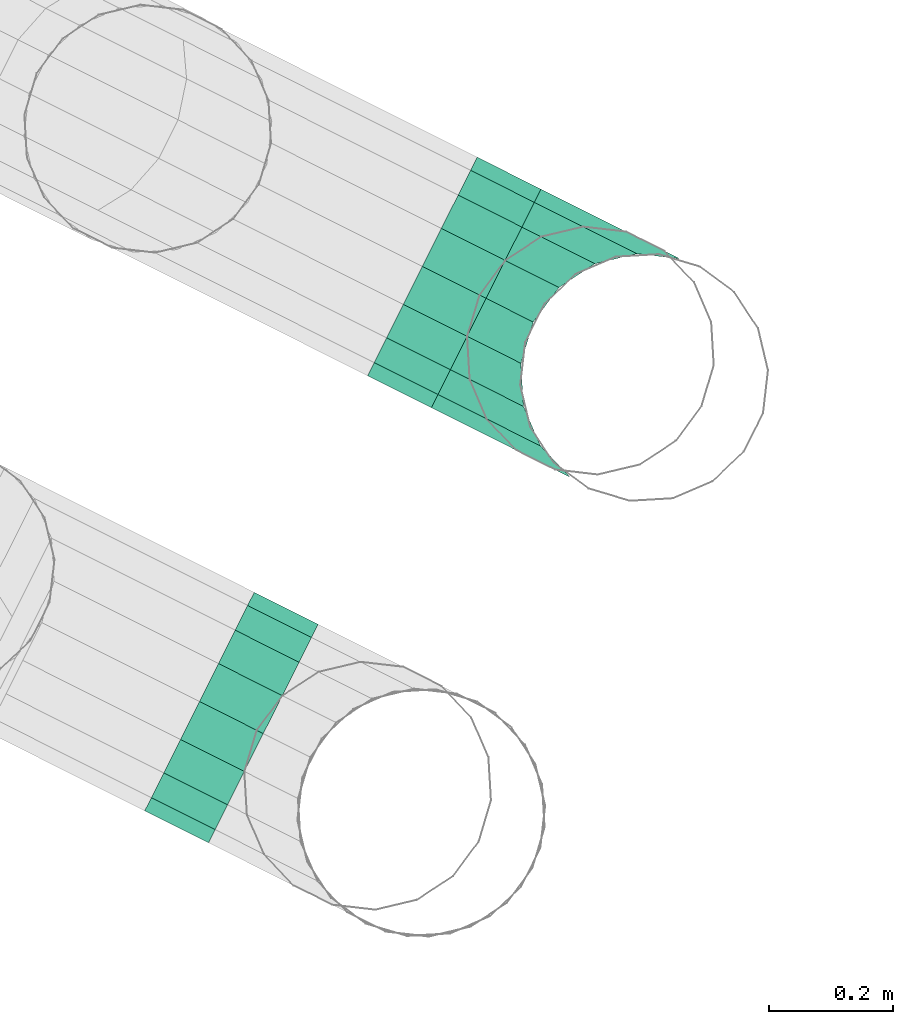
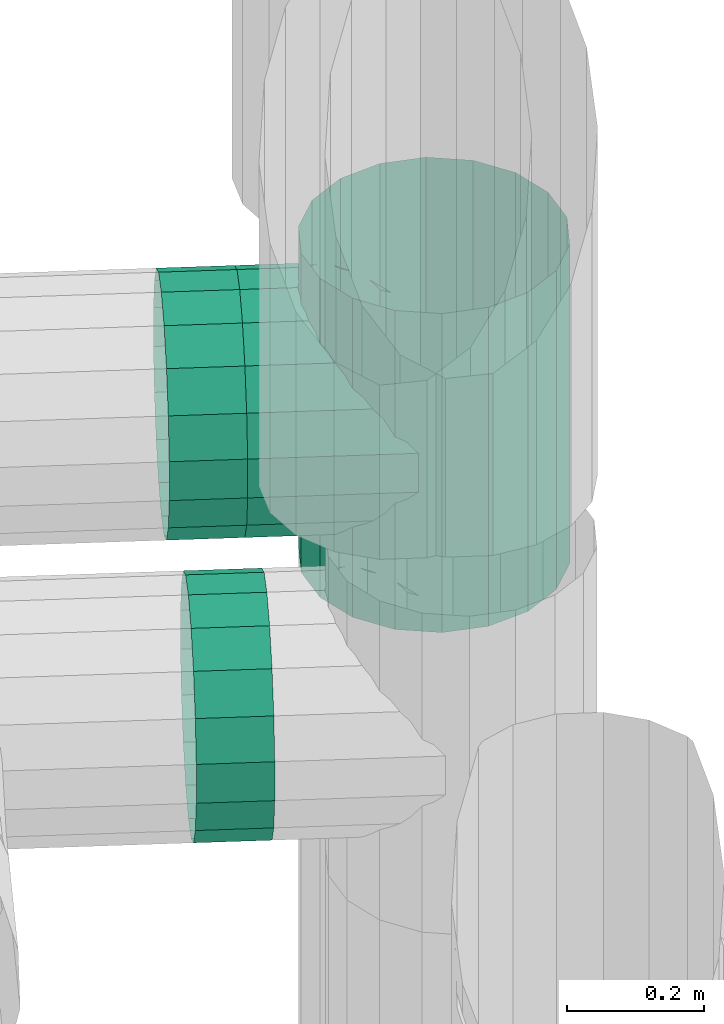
# One storey, part 172 of 206: 2 flow segments, 1 flow fitting.
"""IFC2X3 building model written with IfcOpenShell, lengths in metres."""

from ifc_helpers import new_model, si_unit, derived_unit, direction, frame, origin, place, context, subcontext, project, spatial, face_set, surface_model, source, transform, mapped, material, type_object, type_shapes, element, save


model = new_model("IFC2X3")

# Units and contexts
model_context = context("Model", 3, precision=5.2338327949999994e-05, world=origin(), true_north=direction((0.0, 1.0)))
body_context = subcontext(model_context, "Body", "Model", "MODEL_VIEW")
ifc_project = project(units=[si_unit("LENGTHUNIT", "METRE"), si_unit("AREAUNIT", "SQUARE_METRE"), si_unit("VOLUMEUNIT", "CUBIC_METRE"), si_unit("MASSUNIT", "GRAM", prefix="KILO"), si_unit("PLANEANGLEUNIT", "RADIAN"), derived_unit("THERMALTRANSMITTANCEUNIT", [(si_unit("MASSUNIT", "GRAM", prefix="KILO"), 1), (si_unit("THERMODYNAMICTEMPERATUREUNIT", "KELVIN"), -1), (si_unit("TIMEUNIT", "SECOND"), -3)])], contexts=[model_context])

# Site, building, storey
site_placement = place(None, frame((0.0, 0.0, 0.0), z_axis=(0.0, 0.0, 1.0), x_axis=(0.8939966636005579, -0.4480736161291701, 0.0)))
site = spatial("IfcSite", under=ifc_project, at=site_placement, Name="Default", CompositionType="ELEMENT")
building_placement = place(site_placement, origin())
building = spatial("IfcBuilding", under=site, at=building_placement, CompositionType="ELEMENT")
storey_placement = place(building_placement, origin())
storey = spatial("IfcBuildingStorey", under=building, at=storey_placement, Name="Erdgeschoss", CompositionType="ELEMENT", Elevation=0.0)

# Flow segment
ifc_material = material(Name="IfcSurfaceStyle #251447")
distribution_element_type_1 = type_object("IfcDistributionElementType", Name="Wickelfalzrohr 622653:Wickelfalzrohr 622653", material=ifc_material)
shared_shape_1 = source(origin(), body_context, "Body", "SurfaceModel", [
    surface_model("IfcFaceBasedSurfaceModel", [(25.980704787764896, 16.41, 2.010000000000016), (25.980704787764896, 16.478404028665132, 2.0220614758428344), (26.095791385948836, 16.478404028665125, 2.0220614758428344), (26.095791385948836, 16.409999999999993, 2.0100000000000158), (25.980704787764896, 16.538557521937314, 2.056791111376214), (26.095791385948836, 16.538557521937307, 2.0567911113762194), (25.980704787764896, 16.5832050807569, 2.1100000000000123), (26.095791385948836, 16.583205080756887, 2.1100000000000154), (25.980704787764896, 16.606961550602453, 2.1752703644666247), (26.095791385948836, 16.60696155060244, 2.175270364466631), (25.980704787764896, 16.606961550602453, 2.2447296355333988), (26.095791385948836, 16.606961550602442, 2.244729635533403), (25.980704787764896, 16.583205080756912, 2.310000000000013), (26.09579138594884, 16.58320508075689, 2.3100000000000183), (25.980704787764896, 16.53855752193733, 2.3632088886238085), (26.09579138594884, 16.538557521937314, 2.3632088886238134), (25.980704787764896, 16.478404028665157, 2.3979385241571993), (26.09579138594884, 16.478404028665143, 2.3979385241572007), (25.980704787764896, 16.410000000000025, 2.4100000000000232), (26.09579138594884, 16.410000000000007, 2.4100000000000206), (25.980704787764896, 16.341595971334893, 2.3979385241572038), (26.09579138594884, 16.341595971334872, 2.3979385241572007), (25.980704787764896, 16.281442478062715, 2.3632088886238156), (26.09579138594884, 16.281442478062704, 2.363208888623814), (25.980704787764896, 16.23679491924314, 2.3100000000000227), (26.09579138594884, 16.23679491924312, 2.310000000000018), (25.980704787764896, 16.21303844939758, 2.2447296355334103), (26.095791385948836, 16.213038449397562, 2.2447296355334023), (25.980704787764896, 16.21303844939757, 2.1752703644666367), (26.095791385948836, 16.213038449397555, 2.175270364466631), (25.980704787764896, 16.236794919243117, 2.110000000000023), (26.095791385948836, 16.23679491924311, 2.110000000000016), (25.980704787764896, 16.281442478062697, 2.0567911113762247), (26.095791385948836, 16.28144247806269, 2.0567911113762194), (25.980704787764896, 16.34159597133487, 2.022061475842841), (26.095791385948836, 16.34159597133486, 2.022061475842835)], [face_set([[[0, 1, 2, 3]], [[1, 4, 5, 2]], [[4, 6, 7, 5]], [[6, 8, 9, 7]], [[8, 10, 11, 9]], [[10, 12, 13, 11]], [[12, 14, 15, 13]], [[14, 16, 17, 15]], [[16, 18, 19, 17]], [[18, 20, 21, 19]], [[20, 22, 23, 21]], [[22, 24, 25, 23]], [[24, 26, 27, 25]], [[26, 28, 29, 27]], [[28, 30, 31, 29]], [[30, 32, 33, 31]], [[32, 34, 35, 33]], [[34, 0, 3, 35]]])]),
])
type_shapes(distribution_element_type_1, [shared_shape_1])
flow_segment_1_placement = place(storey_placement, origin())
element("IfcFlowSegment", 1, at=flow_segment_1_placement, inside=storey, type_object=distribution_element_type_1, material=ifc_material, Name="Wickelfalzrohr", ObjectType="Wickelfalzrohr", context=body_context, shape_type="MappedRepresentation", body=[
    mapped(shared_shape_1, transform((0.0, 0.0, 0.0), scale=1.0)),
])

# Flow fitting
distribution_element_type_2 = type_object("IfcDistributionElementType", Name="Abzweigstück 90° 622808:Abzweigstück 90° 622808", material=ifc_material)
shared_shape_2 = source(origin(), body_context, "Body", "SurfaceModel", [
    surface_model("IfcFaceBasedSurfaceModel", [(26.3875108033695, 17.397595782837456, 2.4850000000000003), (26.455914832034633, 17.38553430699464, 2.4850000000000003), (26.455914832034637, 17.385534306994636, 1.9150000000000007), (26.387510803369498, 17.397595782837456, 1.9150000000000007), (26.51606832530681, 17.350804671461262, 2.4850000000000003), (26.51606832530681, 17.350804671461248, 1.9150000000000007), (26.5607158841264, 17.29759578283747, 2.4850000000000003), (26.56071588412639, 17.297595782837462, 1.9150000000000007), (26.58447235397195, 17.232325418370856, 2.4850000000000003), (26.584472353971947, 17.232325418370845, 1.9150000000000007), (26.58447235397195, 17.162866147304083, 2.4850000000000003), (26.584472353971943, 17.162866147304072, 1.9150000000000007), (26.560715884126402, 17.097595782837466, 2.4850000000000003), (26.56071588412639, 17.097595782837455, 1.9150000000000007), (26.516068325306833, 17.04438689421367, 2.4850000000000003), (26.51606832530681, 17.044386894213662, 1.9150000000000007), (26.45591483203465, 17.00965725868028, 2.4850000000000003), (26.455914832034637, 17.00965725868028, 1.9150000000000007), (26.38751080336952, 16.997595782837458, 2.4850000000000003), (26.387510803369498, 16.997595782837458, 1.9150000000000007), (26.319106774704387, 17.00965725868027, 2.4850000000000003), (26.31910677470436, 17.009657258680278, 1.9150000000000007), (26.25895328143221, 17.044386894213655, 2.4850000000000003), (26.25895328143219, 17.044386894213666, 1.9150000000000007), (26.21430572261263, 17.097595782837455, 2.4850000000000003), (26.214305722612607, 17.097595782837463, 1.9150000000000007), (26.19054925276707, 17.16286614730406, 2.4850000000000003), (26.190549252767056, 17.162866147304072, 1.9150000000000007), (26.190549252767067, 17.232325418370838, 2.4850000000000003), (26.190549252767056, 17.232325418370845, 1.9150000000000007), (26.214305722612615, 17.297595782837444, 2.4850000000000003), (26.21430572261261, 17.297595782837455, 1.9150000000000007), (26.258953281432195, 17.350804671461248, 2.4850000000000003), (26.25895328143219, 17.350804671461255, 1.9150000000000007), (26.31910677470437, 17.385534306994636, 2.4850000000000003), (26.319106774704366, 17.38553430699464, 1.9150000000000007), (26.1875108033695, 17.19759578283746, 2.0), (26.19957227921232, 17.129191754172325, 2.0120614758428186), (26.102510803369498, 17.12919175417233, 2.012061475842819), (26.1025108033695, 17.19759578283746, 2.0), (26.2343019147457, 17.06903826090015, 2.0467911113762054), (26.1025108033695, 17.06903826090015, 2.0467911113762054), (26.287510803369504, 17.02439070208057, 2.1), (26.1025108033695, 17.024390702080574, 2.1), (26.35278116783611, 17.00063423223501, 2.165270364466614), (26.1025108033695, 17.00063423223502, 2.165270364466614), (26.35278116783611, 17.00063423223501, 2.2347296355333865), (26.1025108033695, 17.00063423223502, 2.2347296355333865), (26.287510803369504, 17.024390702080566, 2.300000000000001), (26.1025108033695, 17.024390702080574, 2.300000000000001), (26.2343019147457, 17.06903826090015, 2.3532088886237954), (26.1025108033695, 17.06903826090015, 2.3532088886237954), (26.19957227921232, 17.129191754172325, 2.3879385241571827), (26.102510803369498, 17.12919175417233, 2.3879385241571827), (26.1875108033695, 17.19759578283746, 2.400000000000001), (26.1025108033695, 17.19759578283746, 2.4000000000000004), (26.19957227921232, 17.265999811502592, 2.387938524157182), (26.102510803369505, 17.265999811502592, 2.387938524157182), (26.234301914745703, 17.32615330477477, 2.3532088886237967), (26.1025108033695, 17.32615330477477, 2.3532088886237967), (26.287510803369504, 17.370800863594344, 2.2999999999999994), (26.1025108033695, 17.37080086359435, 2.2999999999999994), (26.352781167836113, 17.3945573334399, 2.234729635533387), (26.102510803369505, 17.394557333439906, 2.234729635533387), (26.352781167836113, 17.394557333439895, 2.1652703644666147), (26.102510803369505, 17.394557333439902, 2.1652703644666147), (26.287510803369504, 17.370800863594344, 2.1000000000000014), (26.1025108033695, 17.370800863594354, 2.100000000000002), (26.234301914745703, 17.32615330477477, 2.0467911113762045), (26.1025108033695, 17.32615330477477, 2.0467911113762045), (26.19957227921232, 17.265999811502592, 2.0120614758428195), (26.102510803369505, 17.265999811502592, 2.0120614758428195)], [face_set([[[0, 1, 2, 3]], [[1, 4, 5, 2]], [[4, 6, 7, 5]], [[6, 8, 9, 7]], [[8, 10, 11, 9]], [[10, 12, 13, 11]], [[12, 14, 15, 13]], [[14, 16, 17, 15]], [[16, 18, 19, 17]], [[18, 20, 21, 19]], [[20, 22, 23, 21]], [[22, 24, 25, 23]], [[24, 26, 27, 25]], [[26, 28, 29, 27]], [[28, 30, 31, 29]], [[30, 32, 33, 31]], [[32, 34, 35, 33]], [[34, 0, 3, 35]], [[36, 37, 38, 39]], [[37, 40, 41, 38]], [[40, 42, 43, 41]], [[42, 44, 45, 43]], [[44, 46, 47, 45]], [[46, 48, 49, 47]], [[48, 50, 51, 49]], [[50, 52, 53, 51]], [[52, 54, 55, 53]], [[54, 56, 57, 55]], [[56, 58, 59, 57]], [[58, 60, 61, 59]], [[60, 62, 63, 61]], [[62, 64, 65, 63]], [[64, 66, 67, 65]], [[66, 68, 69, 67]], [[68, 70, 71, 69]], [[70, 36, 39, 71]]])]),
])
type_shapes(distribution_element_type_2, [shared_shape_2])
flow_fitting_placement = place(storey_placement, origin())
element("IfcFlowFitting", 2, at=flow_fitting_placement, inside=storey, type_object=distribution_element_type_2, material=ifc_material, Name="Abzweigstück 90°", ObjectType="Abzweigstück 90°", context=body_context, shape_type="MappedRepresentation", body=[
    mapped(shared_shape_2, transform((0.0, 0.0, 0.0), scale=1.0)),
])

# Flow segment
distribution_element_type_3 = type_object("IfcDistributionElementType", Name="Wickelfalzrohr 622831:Wickelfalzrohr 622831", material=ifc_material)
shared_shape_3 = source(origin(), body_context, "Body", "SurfaceModel", [
    surface_model("IfcFaceBasedSurfaceModel", [(25.987582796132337, 17.197595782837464, 2.0), (25.987582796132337, 17.265999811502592, 2.0120614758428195), (26.1025108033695, 17.2659998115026, 2.0120614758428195), (26.1025108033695, 17.197595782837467, 2.0), (25.987582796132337, 17.326153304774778, 2.0467911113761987), (26.1025108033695, 17.326153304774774, 2.046791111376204), (25.987582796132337, 17.370800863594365, 2.099999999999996), (26.1025108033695, 17.370800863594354, 2.1), (25.987582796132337, 17.394557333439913, 2.1652703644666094), (26.1025108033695, 17.394557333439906, 2.165270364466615), (25.987582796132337, 17.39455733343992, 2.234729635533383), (26.1025108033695, 17.39455733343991, 2.234729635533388), (25.987582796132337, 17.37080086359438, 2.2999999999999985), (26.1025108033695, 17.37080086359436, 2.3000000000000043), (25.987582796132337, 17.32615330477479, 2.3532088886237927), (26.1025108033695, 17.326153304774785, 2.353208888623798), (25.987582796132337, 17.26599981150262, 2.3879385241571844), (26.1025108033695, 17.26599981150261, 2.3879385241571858), (25.987582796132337, 17.19759578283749, 2.4000000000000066), (26.1025108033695, 17.19759578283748, 2.400000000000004), (25.987582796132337, 17.129191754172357, 2.387938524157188), (26.1025108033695, 17.129191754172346, 2.387938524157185), (25.987582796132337, 17.06903826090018, 2.3532088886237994), (26.1025108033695, 17.06903826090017, 2.3532088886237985), (25.987582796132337, 17.024390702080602, 2.3000000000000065), (26.1025108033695, 17.024390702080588, 2.3000000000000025), (25.987582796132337, 17.00063423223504, 2.2347296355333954), (26.1025108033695, 17.00063423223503, 2.2347296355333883), (25.987582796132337, 17.000634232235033, 2.165270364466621), (26.1025108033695, 17.00063423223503, 2.1652703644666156), (25.987582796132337, 17.024390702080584, 2.100000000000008), (26.1025108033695, 17.02439070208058, 2.100000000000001), (25.987582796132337, 17.06903826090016, 2.0467911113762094), (26.1025108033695, 17.069038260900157, 2.046791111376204), (25.987582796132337, 17.129191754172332, 2.0120614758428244), (26.1025108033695, 17.129191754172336, 2.0120614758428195)], [face_set([[[0, 1, 2, 3]], [[1, 4, 5, 2]], [[4, 6, 7, 5]], [[6, 8, 9, 7]], [[8, 10, 11, 9]], [[10, 12, 13, 11]], [[12, 14, 15, 13]], [[14, 16, 17, 15]], [[16, 18, 19, 17]], [[18, 20, 21, 19]], [[20, 22, 23, 21]], [[22, 24, 25, 23]], [[24, 26, 27, 25]], [[26, 28, 29, 27]], [[28, 30, 31, 29]], [[30, 32, 33, 31]], [[32, 34, 35, 33]], [[34, 0, 3, 35]]])]),
])
type_shapes(distribution_element_type_3, [shared_shape_3])
flow_segment_2_placement = place(storey_placement, origin())
element("IfcFlowSegment", 3, at=flow_segment_2_placement, inside=storey, type_object=distribution_element_type_3, material=ifc_material, Name="Wickelfalzrohr", ObjectType="Wickelfalzrohr", context=body_context, shape_type="MappedRepresentation", body=[
    mapped(shared_shape_3, transform((0.0, 0.0, 0.0), scale=1.0)),
])

save(model, "model.ifc")
